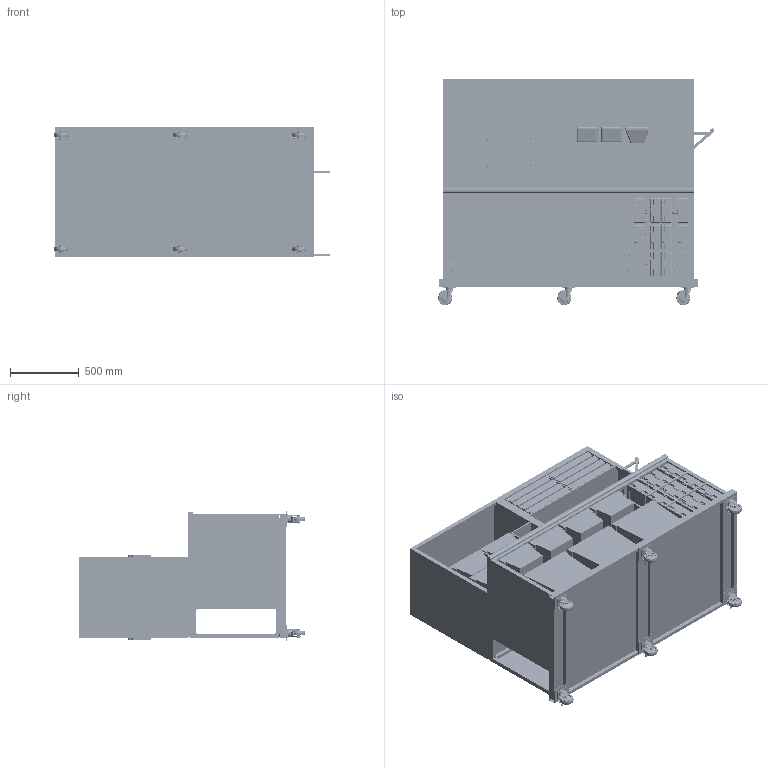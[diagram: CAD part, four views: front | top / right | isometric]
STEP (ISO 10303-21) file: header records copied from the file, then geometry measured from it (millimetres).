
FILE_DESCRIPTION((''),'2;1');
FILE_NAME('118_PIT_SKELETON_FRAME_ASM','2024-01-05T15:34:47',('Rstockton429'),(''),'CREO PARAMETRIC BY PTC INC, 2023073','CREO PARAMETRIC BY PTC INC, 2023073','');
FILE_SCHEMA(('AUTOMOTIVE_DESIGN { 1 0 10303 214 1 1 1 1 }'));
Length unit declared in the file: inch
Products named in the file (47): 118_PIT_SKELETON; BENCHTOP; 118_PIT_UPPER_SKELETON; BOTTOM_FRAME_BOTTOM_PANEL; BOTTOM_FRAME_SIDE_PANEL_RIGHT; BOTTOM_FRAME_BACK_PANEL; BOTTOM_FRAME_SIDE_PANEL_LEFT; BOTTOM_FRAME_BOTTOM_PANEL_2; BOTTOM_FRAME_HORIZONTAL_DIVIDER; BOTTOM_FRAME_VERTICAL_DIVIDER; BATTEREY_BACK_PANEL; 06_ANDERSON_CONNECTOR; 06_BATTERY; BATTERY_LED_HOLDER; UNDERBENCH_HANGER; UNDERBENCH_T_POST; UNDERBENCH_HANGER_RAIL; BATTERY_CHARGER; BUCKETHEAD; 118_PIT_BOTTOM_FRAME_ASSY_ASM; 118_PIT_WHEEL_FRAME; WHEEL_BRACKET; COMBINE1; BOSS-EXTRUDE4; REVOLVE1; 9949T18_ASM; 9949T180_CRESTON_CASTER_ASM; 118_PIT_WHEEL_FRAME_ASSY_ASM; BACK_SIDE; TOP_RIGHT_SIDE; TOP_LEFT_SIDE; TOP_SHEET; TOP_TOTE_SHELF; TOTE_SIDE_SHELF; TOP_TOTE_BELLY_PAN; TOP_TOTE_FAR_LEFT_FRAME; TOP_BOLT_BIN_BOTTOM_SHELF; TOP_BOLT_BIN_VERTICAL_DIVIDERS; DEWALT_CHARGER; MILLY_CHARGER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
Assembly tree (139 placements, depth 5):
  118_PIT_SKELETON_FRAME_ASM
    118_PIT_SKELETON
    BENCHTOP
    118_PIT_UPPER_SKELETON
    118_PIT_BOTTOM_FRAME_ASSY_ASM
      BOTTOM_FRAME_BOTTOM_PANEL
      BOTTOM_FRAME_SIDE_PANEL_RIGHT
      BOTTOM_FRAME_BACK_PANEL
      BOTTOM_FRAME_SIDE_PANEL_LEFT
      BOTTOM_FRAME_BOTTOM_PANEL_2
      BOTTOM_FRAME_HORIZONTAL_DIVIDER  x2
      BOTTOM_FRAME_VERTICAL_DIVIDER  x3
      BATTEREY_BACK_PANEL
      06_ANDERSON_CONNECTOR  x12
      06_BATTERY  x12
      BATTERY_LED_HOLDER
      UNDERBENCH_HANGER  x4
      UNDERBENCH_T_POST  x5
      UNDERBENCH_HANGER_RAIL  x5
      BATTERY_CHARGER  x3
      BUCKETHEAD
    118_PIT_WHEEL_FRAME_ASSY_ASM
      118_PIT_WHEEL_FRAME
      WHEEL_BRACKET  x6
      9949T180_CRESTON_CASTER_ASM  x6
        9949T18_ASM
          COMBINE1
          BOSS-EXTRUDE4
          REVOLVE1
    TOP_FRAME_ASSY_ASM
      BACK_SIDE
      TOP_RIGHT_SIDE
      TOP_LEFT_SIDE
      TOP_SHEET
      TOP_TOTE_SHELF
      TOTE_SIDE_SHELF  x2
      TOP_TOTE_BELLY_PAN
      TOP_TOTE_FAR_LEFT_FRAME
      TOP_BOLT_BIN_BOTTOM_SHELF  x2
      TOP_BOLT_BIN_VERTICAL_DIVIDERS  x3
      DEWALT_CHARGER  x2
      MILLY_CHARGER
      TRASHBUMPER_ARMS  x2
      BOLT_BIN_T  x24
    PIT_TOTE  x8
    BOLT_BIN  x8
    FIRST_TOTE  x3
Bounding box: 2010.73 x 1650.71 x 949.33 mm (x, y, z)
Volume: 797981588.9 mm3; surface area: 54945623.3 mm2
Topology: 147 solids, 170 shells, 26908 faces, 71507 edges, 46739 vertices
Faces by surface type: plane 15641, extrusion 5748, cylinder 4179, bspline 594, torus 414, cone 174, sphere 158
Entity records: 201697 total; most frequent: CARTESIAN_POINT 70857, ORIENTED_EDGE 19820, DIRECTION 17523, PRESENTATION_STYLE_ASSIGNMENT 10321, STYLED_ITEM 10317, EDGE_CURVE 9910, CURVE_STYLE 9441, VECTOR 7695
